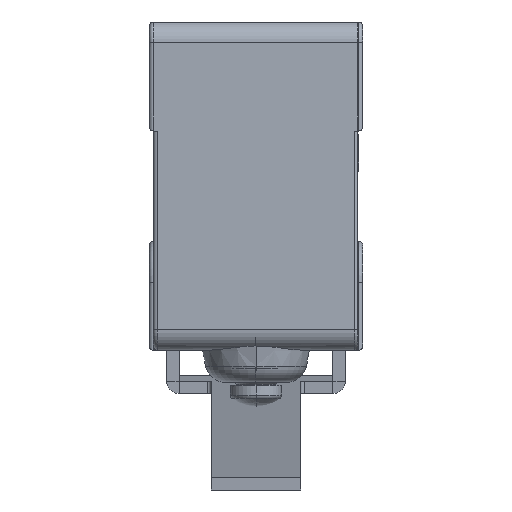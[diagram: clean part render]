
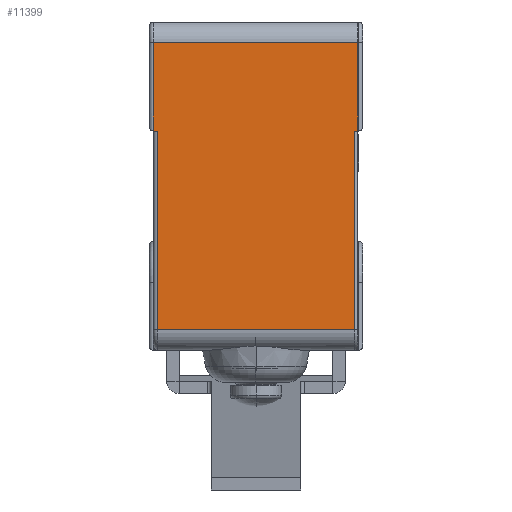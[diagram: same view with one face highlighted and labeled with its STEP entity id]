
A CAD part, left-side view. The second image highlights one B-rep face of the part: STEP entity #11399.
In plain terms, the highlighted planar face has unit normal (-1, 0, 0).
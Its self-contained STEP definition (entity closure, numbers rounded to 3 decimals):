
#4319 = VERTEX_POINT('',#4320);
#4320 = CARTESIAN_POINT('',(21.09,0.25,-5.25));
#4326 = EDGE_CURVE('',#4327,#4319,#4329,.T.);
#4327 = VERTEX_POINT('',#4328);
#4328 = CARTESIAN_POINT('',(21.09,0.25,-1.));
#4329 = LINE('',#4330,#4331);
#4330 = CARTESIAN_POINT('',(21.09,0.25,-1.));
#4331 = VECTOR('',#4332,1.);
#4332 = DIRECTION('',(0.,0.,-1.));
#11380 = VERTEX_POINT('',#11381);
#11381 = CARTESIAN_POINT('',(21.09,10.1,-1.));
#11388 = EDGE_CURVE('',#11380,#4327,#11389,.T.);
#11389 = LINE('',#11390,#11391);
#11390 = CARTESIAN_POINT('',(21.09,10.1,-1.));
#11391 = VECTOR('',#11392,1.);
#11392 = DIRECTION('',(0.,-1.,0.));
#11399 = ADVANCED_FACE('',(#11400),#11450,.F.);
#11400 = FACE_BOUND('',#11401,.F.);
#11401 = EDGE_LOOP('',(#11402,#11403,#11411,#11419,#11427,#11435,#11443,
    #11449));
#11402 = ORIENTED_EDGE('',*,*,#4326,.T.);
#11403 = ORIENTED_EDGE('',*,*,#11404,.F.);
#11404 = EDGE_CURVE('',#11405,#4319,#11407,.T.);
#11405 = VERTEX_POINT('',#11406);
#11406 = CARTESIAN_POINT('',(21.09,0.4,-5.25));
#11407 = LINE('',#11408,#11409);
#11408 = CARTESIAN_POINT('',(21.09,0.4,-5.25));
#11409 = VECTOR('',#11410,1.);
#11410 = DIRECTION('',(0.,-1.,0.));
#11411 = ORIENTED_EDGE('',*,*,#11412,.F.);
#11412 = EDGE_CURVE('',#11413,#11405,#11415,.T.);
#11413 = VERTEX_POINT('',#11414);
#11414 = CARTESIAN_POINT('',(21.09,0.4,-14.8));
#11415 = LINE('',#11416,#11417);
#11416 = CARTESIAN_POINT('',(21.09,0.4,-14.8));
#11417 = VECTOR('',#11418,1.);
#11418 = DIRECTION('',(0.,0.,1.));
#11419 = ORIENTED_EDGE('',*,*,#11420,.F.);
#11420 = EDGE_CURVE('',#11421,#11413,#11423,.T.);
#11421 = VERTEX_POINT('',#11422);
#11422 = CARTESIAN_POINT('',(21.09,9.9,-14.8));
#11423 = LINE('',#11424,#11425);
#11424 = CARTESIAN_POINT('',(21.09,9.9,-14.8));
#11425 = VECTOR('',#11426,1.);
#11426 = DIRECTION('',(0.,-1.,0.));
#11427 = ORIENTED_EDGE('',*,*,#11428,.F.);
#11428 = EDGE_CURVE('',#11429,#11421,#11431,.T.);
#11429 = VERTEX_POINT('',#11430);
#11430 = CARTESIAN_POINT('',(21.09,9.9,-5.25));
#11431 = LINE('',#11432,#11433);
#11432 = CARTESIAN_POINT('',(21.09,9.9,-5.25));
#11433 = VECTOR('',#11434,1.);
#11434 = DIRECTION('',(0.,0.,-1.));
#11435 = ORIENTED_EDGE('',*,*,#11436,.F.);
#11436 = EDGE_CURVE('',#11437,#11429,#11439,.T.);
#11437 = VERTEX_POINT('',#11438);
#11438 = CARTESIAN_POINT('',(21.09,10.1,-5.25));
#11439 = LINE('',#11440,#11441);
#11440 = CARTESIAN_POINT('',(21.09,10.1,-5.25));
#11441 = VECTOR('',#11442,1.);
#11442 = DIRECTION('',(0.,-1.,0.));
#11443 = ORIENTED_EDGE('',*,*,#11444,.F.);
#11444 = EDGE_CURVE('',#11380,#11437,#11445,.T.);
#11445 = LINE('',#11446,#11447);
#11446 = CARTESIAN_POINT('',(21.09,10.1,-1.));
#11447 = VECTOR('',#11448,1.);
#11448 = DIRECTION('',(0.,0.,-1.));
#11449 = ORIENTED_EDGE('',*,*,#11388,.T.);
#11450 = PLANE('',#11451);
#11451 = AXIS2_PLACEMENT_3D('',#11452,#11453,#11454);
#11452 = CARTESIAN_POINT('',(21.09,5.175,-7.9));
#11453 = DIRECTION('',(1.,0.,0.));
#11454 = DIRECTION('',(0.,0.,-1.));
